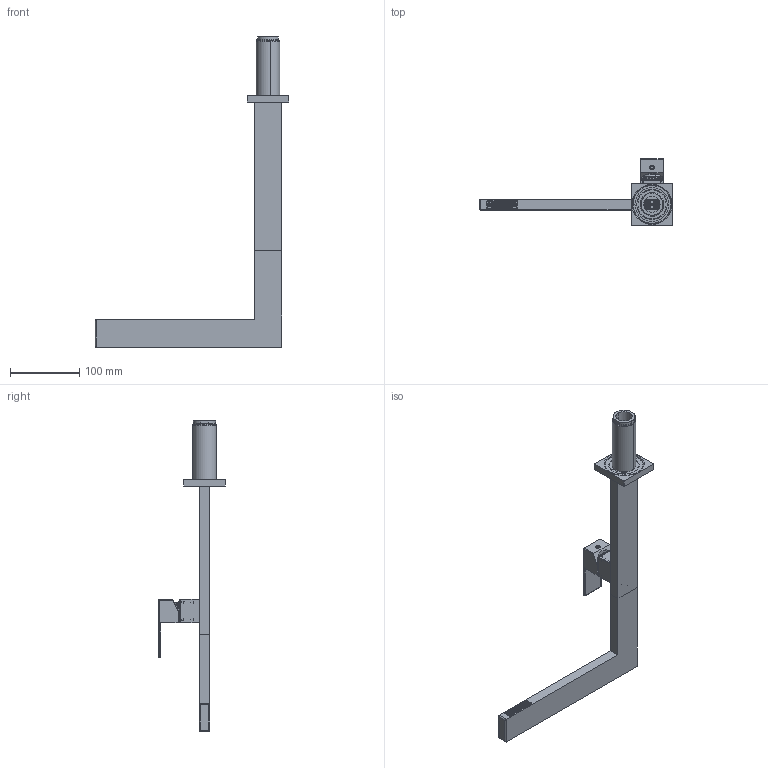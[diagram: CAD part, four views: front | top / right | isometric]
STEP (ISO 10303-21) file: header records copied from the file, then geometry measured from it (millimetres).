
FILE_DESCRIPTION (( 'STEP AP203' ), '1' );
FILE_NAME ('KT10.STEP', '2025-02-07T10:39:49', ( '' ), ( '' ), 'SwSTEP 2.0', 'SolidWorks 2024', '' );
FILE_SCHEMA (( 'CONFIG_CONTROL_DESIGN' ));
Length unit declared in the file: millimetre
Products named in the file (27): C24.0103.00.0; C12.00.0048; C24.0119.00.2; C25.0205.00.0; C21.0112.00.0; C24.0105.00.0; C11.15.0002; C12.00.0001; C24.0111.00.1; KT10; C24.0106.00.0; C25.1405.00.0; C24.0120.00.1; C12.00.0043; C11.10.0003; C11.10.0014; C24.0109.00.0; C24.1402.00.0; EU0253_00; C24.0115.00.0; C13.00.0017; C10.00.0020; C24.0108.00.0; C24.0127.00.0; C11.14.0019; C24.0080.00.1; C47.00.0023.01
Assembly tree (34 placements, depth 3):
  KT10
    EU0253_00
      C24.0115.00.0
      C24.0108.00.0
      C24.0103.00.0
      C24.0109.00.0
      C24.0119.00.2
      C24.0120.00.1
      C11.14.0019  x2
      C11.10.0014  x4
      C10.00.0020
      C47.00.0023.01  x2
      C24.0080.00.1
    C24.0111.00.1
    C24.0106.00.0
    C25.0205.00.0
    C24.0105.00.0
    C24.1402.00.0
    C24.0127.00.0  x2
    C13.00.0017
    C12.00.0048
    C12.00.0001
    C21.0112.00.0
    C12.00.0043
    C11.15.0002  x2
    C25.1405.00.0
    C11.10.0003  x2
Bounding box: 280 x 96.2 x 449.5 mm (x, y, z)
Volume: 435453.7 mm3; surface area: 192601.1 mm2
Topology: 34 solids, 34 shells, 1988 faces, 5308 edges, 3363 vertices
Faces by surface type: plane 797, cylinder 765, cone 208, torus 138, bspline 54, sphere 26
Entity records: 63842 total; most frequent: CARTESIAN_POINT 12636, DIRECTION 10166, ORIENTED_EDGE 9904, EDGE_CURVE 4952, AXIS2_PLACEMENT_3D 3709, VERTEX_POINT 3179, VECTOR 2748, LINE 2748
